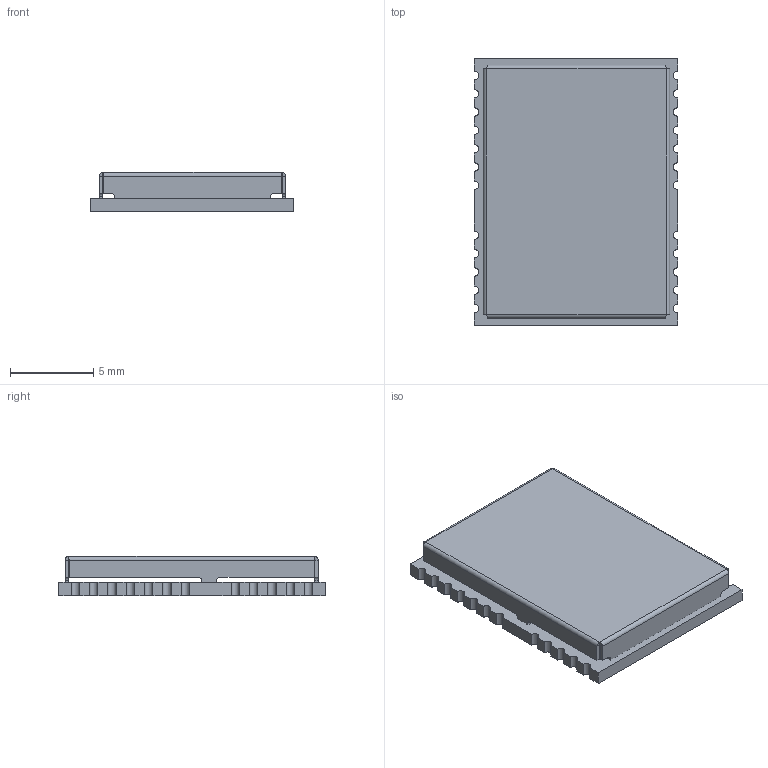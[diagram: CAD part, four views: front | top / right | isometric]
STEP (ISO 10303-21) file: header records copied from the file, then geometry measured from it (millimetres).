
FILE_DESCRIPTION(('KiCad electronic assembly'),'2;1');
FILE_NAME('E108-GN03S-V1.0.step','2024-06-14T13:41:37',('Pcbnew'),( 'Kicad'),'Open CASCADE STEP processor 7.7','KiCad to STEP converter' ,'Unknown');
FILE_SCHEMA(('AUTOMOTIVE_DESIGN { 1 0 10303 214 1 1 1 1 }'));
Length unit declared in the file: millimetre
Products named in the file (4): E108-GN03S-V1.0 1; PBZ-73; _autosave-E108-GN03S-V1.0_PCB
Assembly tree (3 placements, depth 3):
  E108-GN03S-V1.0 1
    PBZ-73
      PBZ-73
    _autosave-E108-GN03S-V1.0_PCB
Bounding box: 12.2 x 16 x 2.35 mm (x, y, z)
Volume: 199.9 mm3; surface area: 905.1 mm2
Topology: 2 solids, 2 shells, 116 faces, 304 edges, 192 vertices
Faces by surface type: plane 68, cylinder 40, bspline 8
Entity records: 3790 total; most frequent: CARTESIAN_POINT 864, ORIENTED_EDGE 608, DIRECTION 576, EDGE_CURVE 304, LINE 224, VECTOR 224, VERTEX_POINT 192, AXIS2_PLACEMENT_3D 176
